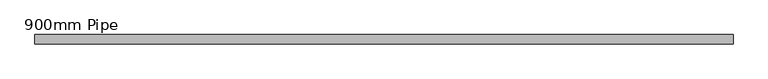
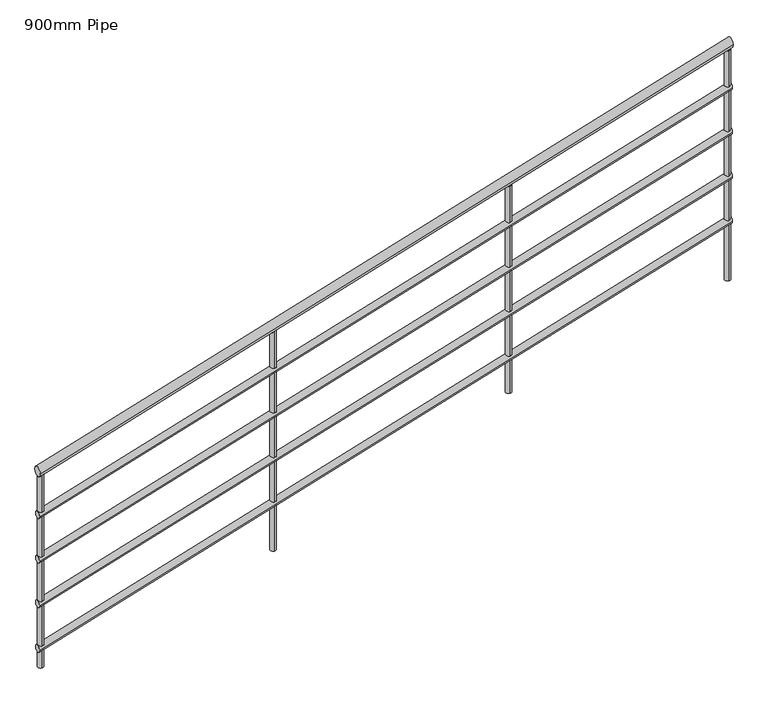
"""IFC4 building model written with IfcOpenShell, lengths in millimetres: railing geometry, 900mm Pipe."""

from ifc_helpers import new_model, si_unit, frame, origin, place, context, project, spatial, circle_curve, ellipse_curve, source, transform, mapped, element, save
from ifc_brep_helpers import plane_surface, cylinder_surface, advanced_brep


def railing_900mm_pipe_e4cdc1e3(model_context):
    return source(origin(), model_context, "Body", "AdvancedBrep", [
        advanced_brep(
        [(877319.9617053, 83116.8219152, 4058.386247), (877319.9617053, 83156.8219152, 4058.386247), (880262.0155652, 83116.8219152, 4954.8568352), (880262.0155652, 83156.8219152, 4954.8568352)],
        [
            (0, 1, ellipse_curve(frame((877319.9617053, 83136.8219152, 4058.386247), z_axis=(-1.0, 0.0, 0.0), x_axis=(0.0, 0.0, -1.0)), 20.9078706, 20.0)),
            (1, 0, ellipse_curve(frame((877319.9617053, 83136.8219152, 4058.386247), z_axis=(-1.0, 0.0, 0.0), x_axis=(0.0, 0.0, -1.0)), 20.9078706, 20.0)),
            (2, 3, ellipse_curve(frame((880262.0155652, 83136.8219152, 4954.8568352), z_axis=(1.0, 0.0, 0.0), x_axis=(0.0, 0.0, -1.0)), 20.9078706, 20.0)),
            (3, 2, ellipse_curve(frame((880262.0155652, 83136.8219152, 4954.8568352), z_axis=(1.0, 0.0, 0.0), x_axis=(0.0, 0.0, -1.0)), 20.9078706, 20.0)),
            (1, 3),
            (2, 0),
        ],
        [
            plane_surface(frame((877319.9617053, 83136.8219152, 4079.2941176), z_axis=(-1.0, 0.0, 0.0), x_axis=(0.0, 1.0, 0.0))),
            plane_surface(frame((880262.0155652, 83136.8219152, 4975.7647059), z_axis=(1.0, 0.0, 0.0), x_axis=(0.0, 1.0, 0.0))),
            cylinder_surface(frame((877325.7912631, 83136.8219152, 4060.1625663), z_axis=(-0.9565775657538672, 0.0, -0.29147789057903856), x_axis=(0.0, 1.0, 0.0)), 20.0),
        ],
        [
            (0, [[1, 2]]),
            (1, [[3, 4]]),
            (2, [[-2, 5, -3, 6]]),
            (2, [[-1, -6, -4, -5]]),
        ],
    ),
        advanced_brep(
        [(877319.9617053, 83121.8219152, 3863.6132147), (877319.9617053, 83151.8219152, 3863.6132147), (880262.0155652, 83121.8219152, 4760.0838029), (880262.0155652, 83151.8219152, 4760.0838029)],
        [
            (0, 1, ellipse_curve(frame((877319.9617053, 83136.8219152, 3863.6132147), z_axis=(-1.0, 0.0, 0.0), x_axis=(0.0, 0.0, -1.0)), 15.680903, 15.0)),
            (1, 0, ellipse_curve(frame((877319.9617053, 83136.8219152, 3863.6132147), z_axis=(-1.0, 0.0, 0.0), x_axis=(0.0, 0.0, -1.0)), 15.680903, 15.0)),
            (2, 3, ellipse_curve(frame((880262.0155652, 83136.8219152, 4760.0838029), z_axis=(1.0, 0.0, 0.0), x_axis=(0.0, 0.0, -1.0)), 15.680903, 15.0)),
            (3, 2, ellipse_curve(frame((880262.0155652, 83136.8219152, 4760.0838029), z_axis=(1.0, 0.0, 0.0), x_axis=(0.0, 0.0, -1.0)), 15.680903, 15.0)),
            (0, 2),
            (3, 1),
        ],
        [
            plane_surface(frame((877319.9617053, 83136.8219152, 3879.2941176), z_axis=(-1.0, 0.0, 0.0), x_axis=(0.0, 1.0, 0.0))),
            plane_surface(frame((880262.0155652, 83136.8219152, 4775.7647059), z_axis=(1.0, 0.0, 0.0), x_axis=(0.0, 1.0, 0.0))),
            cylinder_surface(frame((877324.3338736, 83136.8219152, 3864.9454542), z_axis=(-0.9565775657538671, 0.0, -0.29147789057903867), x_axis=(0.0, 1.0, 0.0)), 15.0),
        ],
        [
            (0, [[1, 2]]),
            (1, [[3, 4]]),
            (2, [[-1, 5, -4, 6]]),
            (2, [[-2, -6, -3, -5]]),
        ],
    ),
        advanced_brep(
        [(877319.9617053, 83121.8219152, 3663.6132147), (877319.9617053, 83151.8219152, 3663.6132147), (880262.0155652, 83121.8219152, 4560.0838029), (880262.0155652, 83151.8219152, 4560.0838029)],
        [
            (0, 1, ellipse_curve(frame((877319.9617053, 83136.8219152, 3663.6132147), z_axis=(-1.0, 0.0, 0.0), x_axis=(0.0, 0.0, -1.0)), 15.680903, 15.0)),
            (1, 0, ellipse_curve(frame((877319.9617053, 83136.8219152, 3663.6132147), z_axis=(-1.0, 0.0, 0.0), x_axis=(0.0, 0.0, -1.0)), 15.680903, 15.0)),
            (2, 3, ellipse_curve(frame((880262.0155652, 83136.8219152, 4560.0838029), z_axis=(1.0, 0.0, 0.0), x_axis=(0.0, 0.0, -1.0)), 15.680903, 15.0)),
            (3, 2, ellipse_curve(frame((880262.0155652, 83136.8219152, 4560.0838029), z_axis=(1.0, 0.0, 0.0), x_axis=(0.0, 0.0, -1.0)), 15.680903, 15.0)),
            (0, 2),
            (3, 1),
        ],
        [
            plane_surface(frame((877319.9617053, 83136.8219152, 3679.2941176), z_axis=(-1.0, 0.0, 0.0), x_axis=(0.0, 1.0, 0.0))),
            plane_surface(frame((880262.0155652, 83136.8219152, 4575.7647059), z_axis=(1.0, 0.0, 0.0), x_axis=(0.0, 1.0, 0.0))),
            cylinder_surface(frame((877324.3338736, 83136.8219152, 3664.9454542), z_axis=(-0.9565775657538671, 0.0, -0.29147789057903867), x_axis=(0.0, 1.0, 0.0)), 15.0),
        ],
        [
            (0, [[1, 2]]),
            (1, [[3, 4]]),
            (2, [[-1, 5, -4, 6]]),
            (2, [[-2, -6, -3, -5]]),
        ],
    ),
        advanced_brep(
        [(877319.9617053, 83121.8219152, 3463.6132147), (877319.9617053, 83151.8219152, 3463.6132147), (880262.0155652, 83121.8219152, 4360.0838029), (880262.0155652, 83151.8219152, 4360.0838029)],
        [
            (0, 1, ellipse_curve(frame((877319.9617053, 83136.8219152, 3463.6132147), z_axis=(-1.0, 0.0, 0.0), x_axis=(0.0, 0.0, -1.0)), 15.680903, 15.0)),
            (1, 0, ellipse_curve(frame((877319.9617053, 83136.8219152, 3463.6132147), z_axis=(-1.0, 0.0, 0.0), x_axis=(0.0, 0.0, -1.0)), 15.680903, 15.0)),
            (2, 3, ellipse_curve(frame((880262.0155652, 83136.8219152, 4360.0838029), z_axis=(1.0, 0.0, 0.0), x_axis=(0.0, 0.0, -1.0)), 15.680903, 15.0)),
            (3, 2, ellipse_curve(frame((880262.0155652, 83136.8219152, 4360.0838029), z_axis=(1.0, 0.0, 0.0), x_axis=(0.0, 0.0, -1.0)), 15.680903, 15.0)),
            (0, 2),
            (3, 1),
        ],
        [
            plane_surface(frame((877319.9617053, 83136.8219152, 3479.2941176), z_axis=(-1.0, 0.0, 0.0), x_axis=(0.0, 1.0, 0.0))),
            plane_surface(frame((880262.0155652, 83136.8219152, 4375.7647059), z_axis=(1.0, 0.0, 0.0), x_axis=(0.0, 1.0, 0.0))),
            cylinder_surface(frame((877324.3338736, 83136.8219152, 3464.9454542), z_axis=(-0.9565775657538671, 0.0, -0.29147789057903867), x_axis=(0.0, 1.0, 0.0)), 15.0),
        ],
        [
            (0, [[1, 2]]),
            (1, [[3, 4]]),
            (2, [[-1, 5, -4, 6]]),
            (2, [[-2, -6, -3, -5]]),
        ],
    ),
        advanced_brep(
        [(877319.9617053, 83121.8219152, 3263.6132147), (877319.9617053, 83151.8219152, 3263.6132147), (880262.0155652, 83121.8219152, 4160.0838029), (880262.0155652, 83151.8219152, 4160.0838029)],
        [
            (0, 1, ellipse_curve(frame((877319.9617053, 83136.8219152, 3263.6132147), z_axis=(-1.0, 0.0, 0.0), x_axis=(0.0, 0.0, -1.0)), 15.680903, 15.0)),
            (1, 0, ellipse_curve(frame((877319.9617053, 83136.8219152, 3263.6132147), z_axis=(-1.0, 0.0, 0.0), x_axis=(0.0, 0.0, -1.0)), 15.680903, 15.0)),
            (2, 3, ellipse_curve(frame((880262.0155652, 83136.8219152, 4160.0838029), z_axis=(1.0, 0.0, 0.0), x_axis=(0.0, 0.0, -1.0)), 15.680903, 15.0)),
            (3, 2, ellipse_curve(frame((880262.0155652, 83136.8219152, 4160.0838029), z_axis=(1.0, 0.0, 0.0), x_axis=(0.0, 0.0, -1.0)), 15.680903, 15.0)),
            (0, 2),
            (3, 1),
        ],
        [
            plane_surface(frame((877319.9617053, 83136.8219152, 3279.2941176), z_axis=(-1.0, 0.0, 0.0), x_axis=(0.0, 1.0, 0.0))),
            plane_surface(frame((880262.0155652, 83136.8219152, 4175.7647059), z_axis=(1.0, 0.0, 0.0), x_axis=(0.0, 1.0, 0.0))),
            cylinder_surface(frame((877324.3338736, 83136.8219152, 3264.9454542), z_axis=(-0.9565775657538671, 0.0, -0.29147789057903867), x_axis=(0.0, 1.0, 0.0)), 15.0),
        ],
        [
            (0, [[1, 2]]),
            (1, [[3, 4]]),
            (2, [[-1, 5, -4, 6]]),
            (2, [[-2, -6, -3, -5]]),
        ],
    ),
        advanced_brep(
        [(879319.9617053, 83149.3219152, 4646.8965794), (879319.9617053, 83124.3219152, 4646.8965794), (879319.9617053, 83124.3219152, 3717.1764706), (879319.9617053, 83149.3219152, 3717.1764706)],
        [
            (0, 1, ellipse_curve(frame((879319.9617053, 83136.8219152, 4646.8965794), z_axis=(0.2914778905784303, 0.0, -0.9565775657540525), x_axis=(0.9565775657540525, 0.0, 0.2914778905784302)), 13.0674191, 12.5)),
            (1, 2),
            (2, 3, circle_curve(frame((879319.9617053, 83136.8219152, 3717.1764706), z_axis=(0.0, 0.0, 1.0), x_axis=(0.0, -1.0, 0.0)), 12.5)),
            (3, 0),
            (3, 2, circle_curve(frame((879319.9617053, 83136.8219152, 3717.1764706), z_axis=(0.0, 0.0, 1.0), x_axis=(0.0, -1.0, 0.0)), 12.5)),
            (1, 0, ellipse_curve(frame((879319.9617053, 83136.8219152, 4646.8965794), z_axis=(0.2914778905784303, 0.0, -0.9565775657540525), x_axis=(0.9565775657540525, 0.0, 0.2914778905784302)), 13.0674191, 12.5)),
        ],
        [
            cylinder_surface(frame((879319.9617053, 83136.8219152, 3617.1764706), z_axis=(0.0, 0.0, 1.0), x_axis=(0.0, -1.0, 0.0)), 12.5),
            plane_surface(frame((879344.9617053, 83111.8219152, 4654.5143069), z_axis=(-0.2914778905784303, 0.0, 0.9565775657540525), x_axis=(0.0, 1.0, 0.0))),
            plane_surface(frame((879294.9617053, 83111.8219152, 3717.1764706), z_axis=(0.0, 0.0, -1.0), x_axis=(0.0, 1.0, 0.0))),
        ],
        [
            (0, [[1, 2, 3, 4]]),
            (0, [[5, -2, 6, -4]]),
            (1, [[-6, -1]]),
            (2, [[-5, -3]]),
        ],
    ),
        advanced_brep(
        [(878319.9617053, 83149.3219152, 4342.1874779), (878319.9617053, 83124.3219152, 4342.1874779), (878319.9617053, 83124.3219152, 3358.5882353), (878319.9617053, 83149.3219152, 3358.5882353)],
        [
            (0, 1, ellipse_curve(frame((878319.9617053, 83136.8219152, 4342.1874779), z_axis=(0.2914778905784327, 0.0, -0.9565775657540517), x_axis=(0.9565775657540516, 0.0, 0.29147789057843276)), 13.0674191, 12.5)),
            (1, 2),
            (2, 3, circle_curve(frame((878319.9617053, 83136.8219152, 3358.5882353), z_axis=(0.0, 0.0, 1.0), x_axis=(0.0, -1.0, 0.0)), 12.5)),
            (3, 0),
            (3, 2, circle_curve(frame((878319.9617053, 83136.8219152, 3358.5882353), z_axis=(0.0, 0.0, 1.0), x_axis=(0.0, -1.0, 0.0)), 12.5)),
            (1, 0, ellipse_curve(frame((878319.9617053, 83136.8219152, 4342.1874779), z_axis=(0.2914778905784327, 0.0, -0.9565775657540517), x_axis=(0.9565775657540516, 0.0, 0.29147789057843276)), 13.0674191, 12.5)),
        ],
        [
            cylinder_surface(frame((878319.9617053, 83136.8219152, 3258.5882353), z_axis=(0.0, 0.0, 1.0), x_axis=(0.0, -1.0, 0.0)), 12.5),
            plane_surface(frame((878344.9617053, 83111.8219152, 4349.8052054), z_axis=(-0.2914778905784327, 0.0, 0.9565775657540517), x_axis=(0.0, 1.0, 0.0))),
            plane_surface(frame((878294.9617053, 83111.8219152, 3358.5882353), z_axis=(0.0, 0.0, -1.0), x_axis=(0.0, 1.0, 0.0))),
        ],
        [
            (0, [[1, 2, 3, 4]]),
            (0, [[5, -2, 6, -4]]),
            (1, [[-6, -1]]),
            (2, [[-5, -3]]),
        ],
    ),
        advanced_brep(
        [(880249.5155652, 83149.3219152, 4930.1401008), (880249.5155652, 83124.3219152, 4930.1401008), (880249.5155652, 83124.3219152, 3896.4705882), (880249.5155652, 83149.3219152, 3896.4705882)],
        [
            (0, 1, ellipse_curve(frame((880249.5155652, 83136.8219152, 4930.1401008), z_axis=(0.2914778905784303, 0.0, -0.9565775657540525), x_axis=(0.9565775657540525, 0.0, 0.2914778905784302)), 13.0674191, 12.5)),
            (1, 2),
            (2, 3, circle_curve(frame((880249.5155652, 83136.8219152, 3896.4705882), z_axis=(0.0, 0.0, 1.0), x_axis=(0.0, -1.0, 0.0)), 12.5)),
            (3, 0),
            (3, 2, circle_curve(frame((880249.5155652, 83136.8219152, 3896.4705882), z_axis=(0.0, 0.0, 1.0), x_axis=(0.0, -1.0, 0.0)), 12.5)),
            (1, 0, ellipse_curve(frame((880249.5155652, 83136.8219152, 4930.1401008), z_axis=(0.2914778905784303, 0.0, -0.9565775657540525), x_axis=(0.9565775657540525, 0.0, 0.2914778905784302)), 13.0674191, 12.5)),
        ],
        [
            cylinder_surface(frame((880249.5155652, 83136.8219152, 3796.4705882), z_axis=(0.0, 0.0, 1.0), x_axis=(0.0, -1.0, 0.0)), 12.5),
            plane_surface(frame((880274.5155652, 83111.8219152, 4937.7578284), z_axis=(-0.2914778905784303, 0.0, 0.9565775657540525), x_axis=(0.0, 1.0, 0.0))),
            plane_surface(frame((880224.5155652, 83111.8219152, 3896.4705882), z_axis=(0.0, 0.0, -1.0), x_axis=(0.0, 1.0, 0.0))),
        ],
        [
            (0, [[1, 2, 3, 4]]),
            (0, [[5, -2, 6, -4]]),
            (1, [[-6, -1]]),
            (2, [[-5, -3]]),
        ],
    ),
        advanced_brep(
        [(877332.4617053, 83149.3219152, 4041.2872401), (877332.4617053, 83124.3219152, 4041.2872401), (877332.4617053, 83124.3219152, 3179.2941176), (877332.4617053, 83149.3219152, 3179.2941176)],
        [
            (0, 1, ellipse_curve(frame((877332.4617053, 83136.8219152, 4041.2872401), z_axis=(0.2914778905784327, 0.0, -0.9565775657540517), x_axis=(0.9565775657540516, 0.0, 0.29147789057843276)), 13.0674191, 12.5)),
            (1, 2),
            (2, 3, circle_curve(frame((877332.4617053, 83136.8219152, 3179.2941176), z_axis=(0.0, 0.0, 1.0), x_axis=(0.0, -1.0, 0.0)), 12.5)),
            (3, 0),
            (3, 2, circle_curve(frame((877332.4617053, 83136.8219152, 3179.2941176), z_axis=(0.0, 0.0, 1.0), x_axis=(0.0, -1.0, 0.0)), 12.5)),
            (1, 0, ellipse_curve(frame((877332.4617053, 83136.8219152, 4041.2872401), z_axis=(0.2914778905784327, 0.0, -0.9565775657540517), x_axis=(0.9565775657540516, 0.0, 0.29147789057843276)), 13.0674191, 12.5)),
        ],
        [
            cylinder_surface(frame((877332.4617053, 83136.8219152, 3079.2941176), z_axis=(0.0, 0.0, 1.0), x_axis=(0.0, -1.0, 0.0)), 12.5),
            plane_surface(frame((877357.4617053, 83111.8219152, 4048.9049677), z_axis=(-0.2914778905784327, 0.0, 0.9565775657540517), x_axis=(0.0, 1.0, 0.0))),
            plane_surface(frame((877307.4617053, 83111.8219152, 3179.2941176), z_axis=(0.0, 0.0, -1.0), x_axis=(0.0, 1.0, 0.0))),
        ],
        [
            (0, [[1, 2, 3, 4]]),
            (0, [[5, -2, 6, -4]]),
            (1, [[-6, -1]]),
            (2, [[-5, -3]]),
        ],
    ),
    ])


if __name__ == "__main__":
    model = new_model("IFC4")
    model_context = context("Model", 3, world=origin())
    ifc_project = project(units=[si_unit("LENGTHUNIT", "METRE", prefix="MILLI")], contexts=[model_context])
    site = spatial("IfcSite", under=ifc_project)
    building = spatial("IfcBuilding", under=site)
    placement = place(None, origin())
    railing_900mm_pipe_shape = railing_900mm_pipe_e4cdc1e3(model_context)
    element("IfcRailing", 1, ObjectType="900mm Pipe", at=placement, inside=building, context=model_context, shape_type="MappedRepresentation", body=[
        mapped(railing_900mm_pipe_shape, transform((0.0, 0.0, 0.0), x_axis=(1.0, 0.0, 0.0), y_axis=(0.0, 1.0, 0.0), z_axis=(0.0, 0.0, 1.0))),
    ])
    save(model, "model.ifc")
